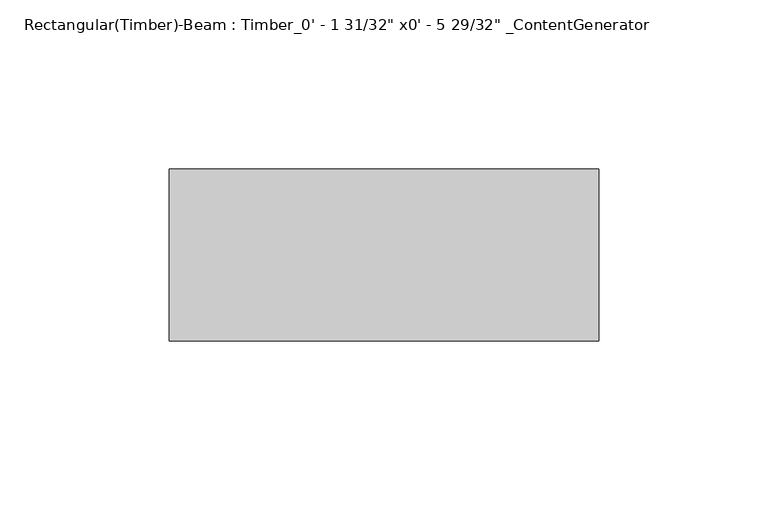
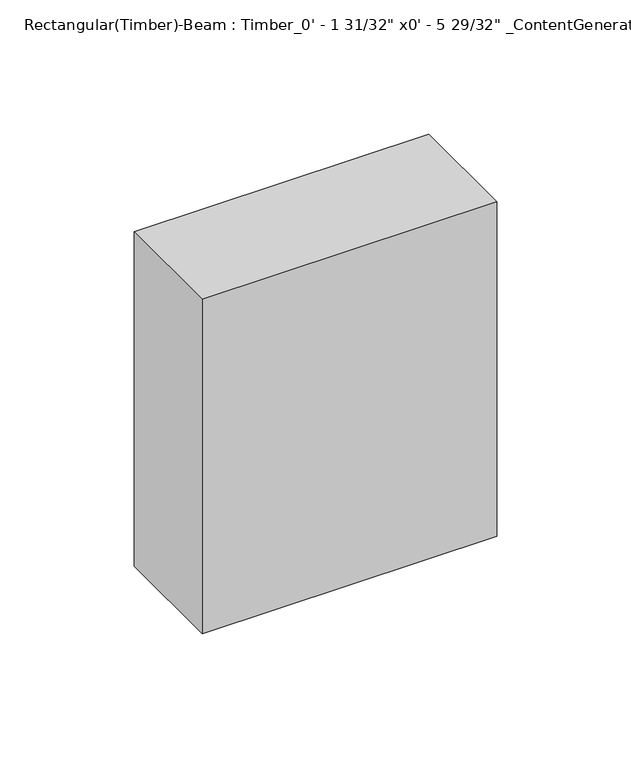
"""IFC4 building model written with IfcOpenShell, lengths in millimetres: beam geometry."""

from ifc_helpers import new_model, si_unit, frame, origin, place, context, project, spatial, polyline, outline, extrude, source, transform, mapped, element, save


def beam_5118db80(model_context):
    return source(origin(), model_context, "Body", "SweptSolid", [
        extrude(outline(polyline([(76.1949994, 25.4), (76.1949994, -25.4), (-50.795, -25.4), (-50.795, 25.4), (76.1949994, 25.4)])), frame((0.0, 0.0, -76.2), z_axis=(0.0, 0.0, 1.0), x_axis=(1.0, 0.0, 0.0)), (0.0, 0.0, 1.0), 152.4),
    ])


if __name__ == "__main__":
    model = new_model("IFC4")
    model_context = context("Model", 3, world=origin())
    ifc_project = project(units=[si_unit("LENGTHUNIT", "METRE", prefix="MILLI")], contexts=[model_context])
    site = spatial("IfcSite", under=ifc_project)
    building = spatial("IfcBuilding", under=site)
    placement = place(None, origin())
    beam_shape = beam_5118db80(model_context)
    element("IfcBeam", 1, ObjectType="Rectangular(Timber)-Beam : Timber_0' - 1 31/32\" x0' - 5 29/32\" _ContentGenerator", at=placement, inside=building, context=model_context, shape_type="MappedRepresentation", body=[
        mapped(beam_shape, transform((0.0, 0.0, 0.0), x_axis=(1.0, 0.0, 0.0), y_axis=(0.0, 1.0, 0.0), z_axis=(0.0, 0.0, 1.0))),
    ])
    save(model, "model.ifc")
